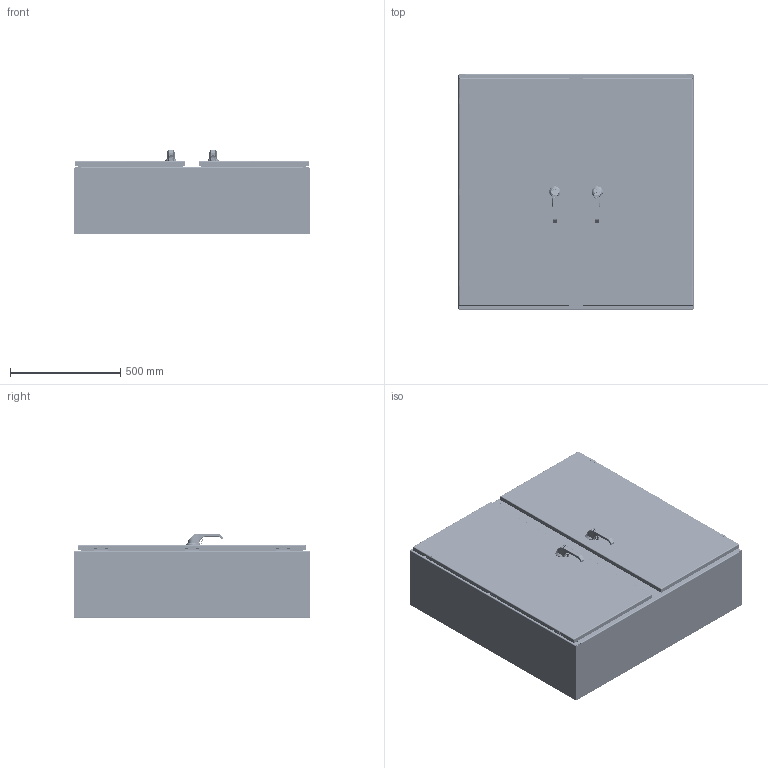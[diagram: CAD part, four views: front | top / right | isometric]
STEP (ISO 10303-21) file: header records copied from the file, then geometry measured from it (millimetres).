
FILE_DESCRIPTION((''),'2;1');
FILE_NAME('MODEL-326_ASM','2026-08-10T14:19:01',('joshi'),('SAGINAW CONTROL & ENGINEERING'),'CREO PARAMETRIC BY PTC INC, 2021284','CREO PARAMETRIC BY PTC INC, 2021284','');
FILE_SCHEMA(('AUTOMOTIVE_DESIGN { 1 0 10303 214 1 1 1 1 }'));
Length unit declared in the file: inch
Products named in the file (79): MODEL-326-BDY; MODEL-326-TP; MODEL-326-BTM; 128377; 100041; 128377_ASM; MODEL-326-CCA-CHNL; MODEL-326-CCA-STIFF; 100067; 128025; 128380; 102535; MODEL-326-CCASSY_ASM; MODEL-326-R-DR; 100837; 100882; 111267; 100955_SCREW_MTG; 100955_PADLOCK_CATCH; 100955_SCREW_LARGE; 100955_INSERT_SHAFT; 100955_INSERT_PKH; 100955_GASKET; 100955_O-RING; 100955_BASE; 100955_SPRING; 100955_HANDLE; 100955_CAM_SHAFT; 100955_HANDLE_ASM; 100955_CAM_ADAPTER; 100955_EARTH_NUT; 100955_FLANGE_NUT; 100955_CAM_NUT; 100955_KEY_INSERT; 100955_SPRING_CAM; 100955_TORSION_SPRING; 100955_SCREW_INSERT; 100955_ASM; 102236; 100030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
Assembly tree (194 placements, depth 5):
  MODEL-326_ASM
    MODEL-326-BDY
    MODEL-326-TP
    MODEL-326-BTM
    128377_ASM  x2
      128377
      100041
    MODEL-326-CCASSY_ASM
      MODEL-326-CCA-CHNL
      MODEL-326-CCA-STIFF
      100067  x2
      128025  x2
      128380  x2
      102535  x8
    MODEL-326-RIGHT-DR-ASSY_ASM
      MODEL-326-R-DR
      100837  x5
      100882  x4
      111267
      100955_ASM
        100955_SCREW_MTG
        100955_PADLOCK_CATCH
        100955_SCREW_LARGE  x2
        100955_INSERT_SHAFT
        100955_INSERT_PKH
        100955_GASKET
        100955_O-RING
        100955_BASE
        100955_SPRING
        100955_HANDLE_ASM
          100955_HANDLE
          100955_CAM_SHAFT
        100955_CAM_ADAPTER
        100955_EARTH_NUT
        100955_FLANGE_NUT
        100955_CAM_NUT
        100955_KEY_INSERT
        100955_SPRING_CAM
        100955_TORSION_SPRING
        100955_SCREW_INSERT
      102236_ASM
        102236
        100030  x2
      MODEL-326-ROD-UPR-RD_ASM
        MODEL-326-ROD-UPR-RD
        128146
        128145
        128144
        102482  x2
      128143  x2
      112504  x2
      MODEL-326-ROD-LWR-RD_ASM
        MODEL-326-ROD-LWR-RD
        128146
        128145
        128144
        102482  x2
      MODEL-326-GSKT-R-DR
      126392_ASM  x3
        126392
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Bounding box: 1066.8 x 1066.8 x 383.31 mm (x, y, z)
Volume: 12556708 mm3; surface area: 11228147 mm2
Topology: 224 solids, 230 shells, 18248 faces, 45634 edges, 27796 vertices
Faces by surface type: plane 6601, cylinder 4871, bspline 3084, torus 1666, cone 1338, sphere 628, extrusion 60
Entity records: 382688 total; most frequent: CARTESIAN_POINT 149786, ORIENTED_EDGE 35812, DIRECTION 32903, PRESENTATION_STYLE_ASSIGNMENT 17986, STYLED_ITEM 17979, CURVE_STYLE 17906, EDGE_CURVE 17906, AXIS2_PLACEMENT_3D 12120
